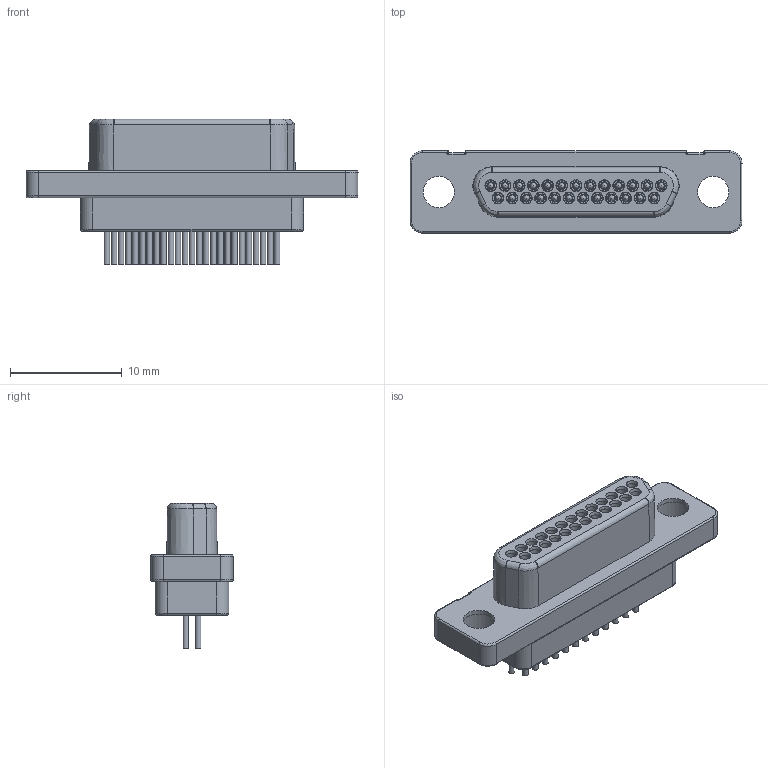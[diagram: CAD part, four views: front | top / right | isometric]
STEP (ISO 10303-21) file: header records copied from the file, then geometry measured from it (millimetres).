
FILE_DESCRIPTION (( 'STEP AP203' ), '1' );
FILE_NAME ('380-025-113L001.STEP', '2020-04-02T15:42:11', ( '' ), ( '' ), 'SwSTEP 2.0', 'SolidWorks 2017', '' );
FILE_SCHEMA (( 'CONFIG_CONTROL_DESIGN' ));
Length unit declared in the file: inch
Products named in the file (1): 380-025-113L001
Bounding box: 29.7 x 7.35 x 13 mm (x, y, z)
Volume: 1066.1 mm3; surface area: 2391.2 mm2
Topology: 1 solids, 1 shells, 1389 faces, 3560 edges, 2216 vertices
Faces by surface type: cylinder 566, plane 485, bspline 209, cone 129
Full cylindrical faces by diameter (mm): 0.3 x75, 0.457 x25, 0.5 x75, 0.7 x25, 0.8 x25, 0.95 x25, 1 x13, 1.03 x25, 2.8 x2, 4.1 x2
Entity records: 49093 total; most frequent: CARTESIAN_POINT 21283, ORIENTED_EDGE 5478, DIRECTION 5137, EDGE_CURVE 2739, AXIS2_PLACEMENT_3D 2240, EDGE_LOOP 2128, VERTEX_POINT 1987, FACE_OUTER_BOUND 1806
